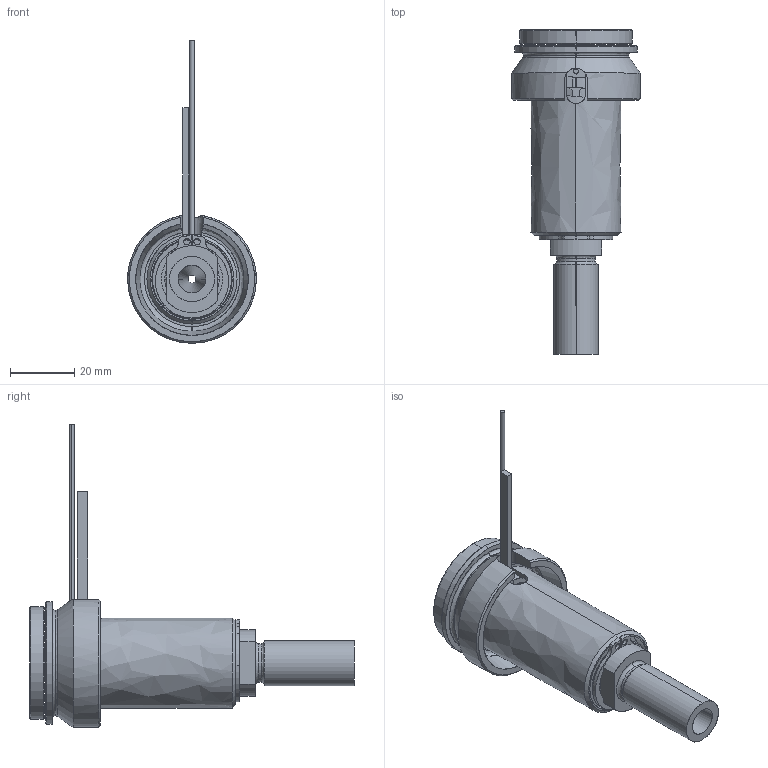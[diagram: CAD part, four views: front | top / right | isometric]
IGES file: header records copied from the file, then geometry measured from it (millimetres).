
Start section: SolidWorks IGES file using analytic representation for surfaces
Global section: file name: C:\Documents and Settings\ws-20\Desktop\TEMPORANEA\UGBE4001-S-A-P-5 [Ød-2.5 P-25 ØC-09].IGS; native system: SolidWorks 2012; preprocessor: SolidWorks 2012; author: ws-20; date: 120306.123332; units: millimetre
Bounding box: 40 x 101 x 94.15 mm (x, y, z)
Surface area: 26207.8 mm2 (no closed solid volume)
Topology: 0 solids, 0 shells, 109 faces, 1919 edges, 1919 vertices
Faces by surface type: revolution 66, bspline 43
